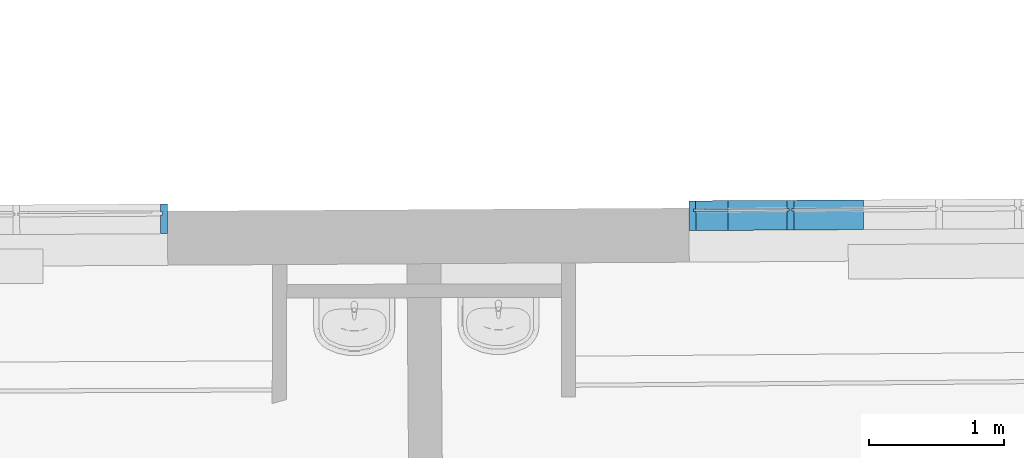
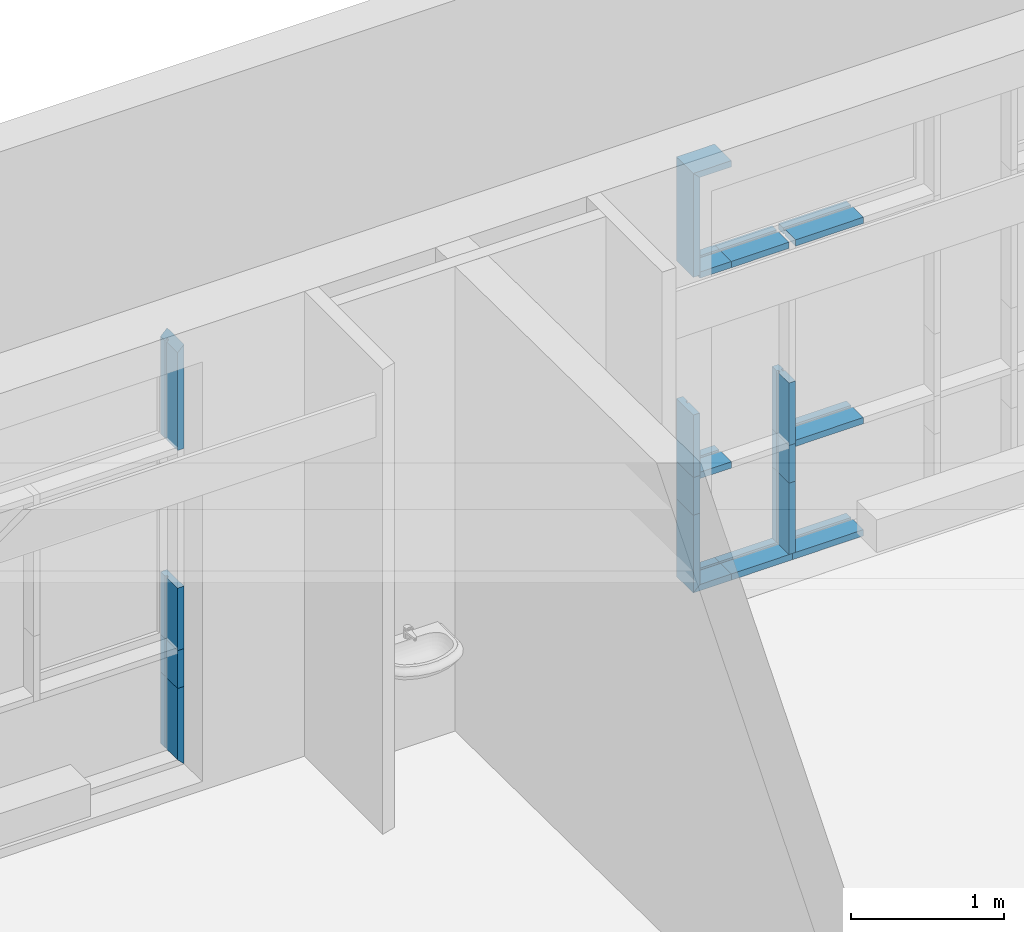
# One storey, part 162 of 196: 20 building element parts, 2 elements without a shape of their own.
"""IFC2X3 building model written with IfcOpenShell, lengths in metres."""

from ifc_helpers import new_model, entity, si_unit, converted_unit, derived_unit, money_unit, direction, frame, origin_with_axes, place, context, subcontext, project, spatial, faceted_brep, material, type_object, element, aggregate, save


model = new_model("IFC2X3")

# Units and contexts
model_context = context("Model", 3, precision=1e-05, world=origin_with_axes(), true_north=direction((0.0, 1.0)))
body_context = subcontext(model_context, "Body", "Model", "MODEL_VIEW")
ifc_project = project(units=[si_unit("LENGTHUNIT", "METRE"), si_unit("AREAUNIT", "SQUARE_METRE"), si_unit("VOLUMEUNIT", "CUBIC_METRE"), converted_unit("PLANEANGLEUNIT", "DEGREE", entity("IfcPlaneAngleMeasure", 0.0174532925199), si_unit("PLANEANGLEUNIT", "RADIAN"), dimensions=[0, 0, 0, 0, 0, 0, 0]), money_unit("EUR"), converted_unit("TIMEUNIT", "Year", entity("IfcTimeMeasure", 31556926.0), si_unit("TIMEUNIT", "SECOND"), dimensions=[0, 0, 1, 0, 0, 0, 0]), si_unit("MASSUNIT", "GRAM", prefix="KILO"), si_unit("THERMODYNAMICTEMPERATUREUNIT", "DEGREE_CELSIUS"), si_unit("LUMINOUSINTENSITYUNIT", "LUMEN"), si_unit("ENERGYUNIT", "JOULE", prefix="MEGA"), derived_unit("THERMALCONDUCTANCEUNIT", [(si_unit("POWERUNIT", "WATT"), 1), (si_unit("LENGTHUNIT", "METRE"), -1), (si_unit("THERMODYNAMICTEMPERATUREUNIT", "KELVIN"), -1)]), derived_unit("SPECIFICHEATCAPACITYUNIT", [(si_unit("ENERGYUNIT", "JOULE"), 1), (si_unit("MASSUNIT", "GRAM", prefix="KILO"), -1), (si_unit("THERMODYNAMICTEMPERATUREUNIT", "KELVIN"), -1)]), derived_unit("MASSDENSITYUNIT", [(si_unit("MASSUNIT", "GRAM", prefix="KILO"), 1), (si_unit("VOLUMEUNIT", "CUBIC_METRE"), -1)])], contexts=[model_context])

# Site, building, storey
site_placement = place(None, origin_with_axes())
site = spatial("IfcSite", under=ifc_project, at=site_placement, Name="Gelände", CompositionType="ELEMENT")
building_placement = place(site_placement, origin_with_axes())
building = spatial("IfcBuilding", under=site, at=building_placement, Name="Gebäude", CompositionType="ELEMENT")
storey_placement = place(building_placement, frame((0.0, 0.0, -3.0), z_axis=(0.0, 0.0, 1.0), x_axis=(1.0, 0.0, 0.0)))
storey = spatial("IfcBuildingStorey", under=building, at=storey_placement, Name="KELLERGESCHOSS", CompositionType="ELEMENT", Elevation=-3.0)

# Proxy, building element parts
building_element_proxy_type = type_object("IfcBuildingElementProxyType", Name="Fassadentyp", PredefinedType="NOTDEFINED")
proxy_1_placement = place(storey_placement, frame((-32.8906294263, 53.9050625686, 0.421025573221), z_axis=(0.0, 0.0, 1.0), x_axis=(1.0, 0.0, 0.0)))
proxy_1 = element("IfcBuildingElementProxy", 1, at=proxy_1_placement, inside=storey, type_object=building_element_proxy_type, Name="Fassade-002")
ifc_material = material(Name="53_Metall, Aluminium")
building_element_part_1_placement = place(proxy_1_placement, origin_with_axes())
building_element_part_1 = element("IfcBuildingElementPart", 2, at=building_element_part_1_placement, material=ifc_material, Name="53_Metall, Aluminium", context=body_context, shape_type="Brep", body=[
    faceted_brep([(4.05205270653, 0.0139380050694, 0.619999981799), (4.03705296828, 0.0138493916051, 0.619999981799), (4.03788002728, -0.126148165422, 0.619999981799), (4.08787915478, -0.125852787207, 0.619999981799), (4.08657949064, 0.0941433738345, 0.619999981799), (4.03658036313, 0.0938479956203, 0.619999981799), (4.03693481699, 0.0338490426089, 0.619999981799), (4.05193455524, 0.0339376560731, 0.619999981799), (4.05205270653, 0.0139380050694, 0.0349999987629), (4.03705296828, 0.0138493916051, 0.0499999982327), (4.03788002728, -0.126148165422, 0.0499999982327), (4.08787915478, -0.125852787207, 0.0), (4.08657949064, 0.0941433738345, 0.0), (4.03658036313, 0.0938479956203, 0.0499999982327), (4.03693481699, 0.0338490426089, 0.0499999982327), (4.05193455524, 0.0339376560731, 0.0349999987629)], [[[0, 1, 2, 3, 4, 5, 6, 7]], [[0, 8, 9, 1]], [[9, 10, 2, 1]], [[2, 10, 11, 3]], [[3, 11, 12, 4]], [[4, 12, 13, 5]], [[6, 5, 13, 14]], [[14, 15, 7, 6]], [[7, 15, 8, 0]], [[8, 15, 14, 13, 12, 11, 10, 9]]]),
])
building_element_part_2_placement = place(proxy_1_placement, origin_with_axes())
building_element_part_2 = element("IfcBuildingElementPart", 3, at=building_element_part_2_placement, material=ifc_material, Name="53_Metall, Aluminium", context=body_context, shape_type="Brep", body=[
    faceted_brep([(4.05205270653, 0.0139380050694, 0.920851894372), (4.03705296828, 0.0138493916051, 0.920851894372), (4.03788002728, -0.126148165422, 0.920851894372), (4.08787915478, -0.125852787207, 0.920851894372), (4.08657949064, 0.0941433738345, 0.920851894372), (4.03658036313, 0.0938479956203, 0.920851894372), (4.03693481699, 0.0338490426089, 0.920851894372), (4.05193455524, 0.0339376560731, 0.920851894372), (4.05205270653, 0.0139380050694, 0.620000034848), (4.03705296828, 0.0138493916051, 0.620000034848), (4.03788002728, -0.126148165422, 0.620000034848), (4.08787915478, -0.125852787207, 0.620000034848), (4.08657949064, 0.0941433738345, 0.620000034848), (4.03658036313, 0.0938479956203, 0.620000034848), (4.03693481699, 0.0338490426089, 0.620000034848), (4.05193455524, 0.0339376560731, 0.620000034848)], [[[0, 1, 2, 3, 4, 5, 6, 7]], [[0, 8, 9, 1]], [[9, 10, 2, 1]], [[10, 11, 3, 2]], [[11, 12, 4, 3]], [[12, 13, 5, 4]], [[6, 5, 13, 14]], [[14, 15, 7, 6]], [[7, 15, 8, 0]], [[8, 15, 14, 13, 12, 11, 10, 9]]]),
])
building_element_part_3_placement = place(proxy_1_placement, origin_with_axes())
building_element_part_3 = element("IfcBuildingElementPart", 4, at=building_element_part_3_placement, material=ifc_material, Name="53_Metall, Aluminium", context=body_context, shape_type="Brep", body=[
    faceted_brep([(4.05205270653, 0.0139380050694, 1.42000003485), (4.03705296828, 0.0138493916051, 1.42000003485), (4.03788002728, -0.126148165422, 1.42000003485), (4.08787915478, -0.125852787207, 1.42000003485), (4.08657949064, 0.0941433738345, 1.42000003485), (4.03658036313, 0.0938479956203, 1.42000003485), (4.03693481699, 0.0338490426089, 1.42000003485), (4.05193455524, 0.0339376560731, 1.42000003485), (4.05205270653, 0.0139380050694, 0.920851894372), (4.03705296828, 0.0138493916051, 0.920851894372), (4.03788002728, -0.126148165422, 0.920851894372), (4.08787915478, -0.125852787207, 0.920851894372), (4.08657949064, 0.0941433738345, 0.920851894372), (4.03658036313, 0.0938479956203, 0.920851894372), (4.03693481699, 0.0338490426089, 0.920851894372), (4.05193455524, 0.0339376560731, 0.920851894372)], [[[0, 1, 2, 3, 4, 5, 6, 7]], [[0, 8, 9, 1]], [[9, 10, 2, 1]], [[10, 11, 3, 2]], [[11, 12, 4, 3]], [[12, 13, 5, 4]], [[6, 5, 13, 14]], [[14, 15, 7, 6]], [[7, 15, 8, 0]], [[8, 15, 14, 13, 12, 11, 10, 9]]]),
])
building_element_part_4_placement = place(proxy_1_placement, origin_with_axes())
building_element_part_4 = element("IfcBuildingElementPart", 5, at=building_element_part_4_placement, material=ifc_material, Name="53_Metall, Aluminium", context=body_context, shape_type="Brep", body=[
    faceted_brep([(4.05205270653, 0.0139380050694, 3.31499996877), (4.03705296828, 0.0138493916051, 3.29999996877), (4.03788002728, -0.126148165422, 3.29999996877), (4.08787915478, -0.125852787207, 3.34999996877), (4.08657949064, 0.0941433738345, 3.34999996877), (4.03658036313, 0.0938479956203, 3.29999996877), (4.03693481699, 0.0338490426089, 3.29999996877), (4.05193455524, 0.0339376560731, 3.31499996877), (4.05205270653, 0.0139380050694, 2.52000003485), (4.03705296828, 0.0138493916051, 2.52000003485), (4.03788002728, -0.126148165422, 2.52000003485), (4.08787915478, -0.125852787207, 2.52000003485), (4.08657949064, 0.0941433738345, 2.52000003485), (4.03658036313, 0.0938479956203, 2.52000003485), (4.03693481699, 0.0338490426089, 2.52000003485), (4.05193455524, 0.0339376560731, 2.52000003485)], [[[0, 1, 2, 3, 4, 5, 6, 7]], [[0, 8, 9, 1]], [[9, 10, 2, 1]], [[10, 11, 3, 2]], [[11, 12, 4, 3]], [[12, 13, 5, 4]], [[6, 5, 13, 14]], [[14, 15, 7, 6]], [[7, 15, 8, 0]], [[8, 15, 14, 13, 12, 11, 10, 9]]]),
])
aggregate(proxy_1, [building_element_part_1, building_element_part_2, building_element_part_3, building_element_part_4])

proxy_2_placement = place(storey_placement, frame((-23.6479994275, 53.9595773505, 0.421025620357), z_axis=(0.0, 0.0, 1.0), x_axis=(1.0, 0.0, 0.0)))
proxy_2 = element("IfcBuildingElementProxy", 6, at=proxy_2_placement, inside=storey, type_object=building_element_proxy_type, Name="Fassade-002")
building_element_part_5_placement = place(proxy_2_placement, origin_with_axes())
building_element_part_5 = element("IfcBuildingElementPart", 7, at=building_element_part_5_placement, material=ifc_material, Name="53_Metall, Aluminium", context=body_context, shape_type="Brep", body=[
    faceted_brep([(-0.546920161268, -0.0132311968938, 0.034999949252), (-0.547038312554, 0.00676845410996, 0.034999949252), (-0.547038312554, 0.00676845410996, 0.049999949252), (-0.547392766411, 0.0667674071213, 0.049999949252), (-0.547392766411, 0.0667674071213, -5.07479946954e-08), (-0.546093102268, -0.15322875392, -5.07479946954e-08), (-0.546093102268, -0.15322875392, 0.049999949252), (-0.546920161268, -0.0132311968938, 0.049999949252), (-0.00820228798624, -0.0100486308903, 0.034999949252), (-0.00832043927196, 0.00995102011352, 0.034999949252), (-0.00832043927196, 0.00995102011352, 0.049999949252), (-0.00867489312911, 0.0699499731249, 0.049999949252), (-0.00867489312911, 0.0699499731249, -5.07479946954e-08), (-0.00737522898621, -0.150046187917, -5.07479946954e-08), (-0.00737522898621, -0.150046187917, 0.049999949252), (-0.00820228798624, -0.0100486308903, 0.049999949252)], [[[0, 1, 2, 3, 4, 5, 6, 7]], [[1, 0, 8, 9]], [[10, 2, 1, 9]], [[2, 10, 11, 3]], [[12, 4, 3, 11]], [[13, 5, 4, 12]], [[14, 6, 5, 13]], [[15, 7, 6, 14]], [[0, 7, 15, 8]], [[8, 15, 14, 13, 12, 11, 10, 9]]]),
])
building_element_part_6_placement = place(proxy_2_placement, origin_with_axes())
building_element_part_6 = element("IfcBuildingElementPart", 8, at=building_element_part_6_placement, material=ifc_material, Name="53_Metall, Aluminium", context=body_context, shape_type="Brep", body=[
    faceted_brep([(-1.00818484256, -0.0159561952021, 0.034999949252), (-1.00830299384, 0.0040434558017, 0.034999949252), (-1.00830299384, 0.0040434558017, 0.049999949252), (-1.0086574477, 0.0640424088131, 0.049999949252), (-1.0086574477, 0.0640424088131, -5.07479942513e-08), (-1.00735778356, -0.155953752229, -5.07479942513e-08), (-1.00735778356, -0.155953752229, 0.049999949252), (-1.00818484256, -0.0159561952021, 0.049999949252), (-0.546920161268, -0.0132311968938, 0.034999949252), (-0.547038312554, 0.00676845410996, 0.034999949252), (-0.547038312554, 0.00676845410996, 0.049999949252), (-0.547392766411, 0.0667674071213, 0.049999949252), (-0.547392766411, 0.0667674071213, -5.07479942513e-08), (-0.546093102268, -0.15322875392, -5.07479942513e-08), (-0.546093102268, -0.15322875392, 0.049999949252), (-0.546920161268, -0.0132311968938, 0.049999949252)], [[[0, 1, 2, 3, 4, 5, 6, 7]], [[1, 0, 8, 9]], [[10, 2, 1, 9]], [[2, 10, 11, 3]], [[12, 4, 3, 11]], [[13, 5, 4, 12]], [[14, 6, 5, 13]], [[15, 7, 6, 14]], [[0, 7, 15, 8]], [[8, 15, 14, 13, 12, 11, 10, 9]]]),
])
building_element_part_7_placement = place(proxy_2_placement, origin_with_axes())
building_element_part_7 = element("IfcBuildingElementPart", 9, at=building_element_part_7_placement, material=ifc_material, Name="53_Metall, Aluminium", context=body_context, shape_type="Brep", body=[
    faceted_brep([(-1.00818483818, -0.0159561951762, 2.50999998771), (-1.00818483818, -0.0159561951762, 2.49499998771), (-1.00735777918, -0.155953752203, 2.49499998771), (-1.00735777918, -0.155953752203, 2.54499998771), (-1.00818483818, -0.0159561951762, 2.54499998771), (-1.00818483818, -0.0159561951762, 2.52999998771), (-1.00830298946, 0.00404345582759, 2.52999998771), (-1.00830298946, 0.00404345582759, 2.54499998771), (-1.00865744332, 0.064042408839, 2.54499998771), (-1.00865744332, 0.064042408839, 2.49499998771), (-1.00830298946, 0.00404345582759, 2.49499998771), (-1.00830298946, 0.00404345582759, 2.50999998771), (-0.57191973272, -0.0133788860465, 2.50999998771), (-0.57191973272, -0.0133788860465, 2.49499998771), (-0.57109267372, -0.153376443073, 2.49499998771), (-0.57109267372, -0.153376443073, 2.54499998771), (-0.57191973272, -0.0133788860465, 2.54499998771), (-0.57191973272, -0.0133788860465, 2.52999998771), (-0.572037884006, 0.00662076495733, 2.52999998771), (-0.572037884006, 0.00662076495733, 2.54499998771), (-0.572392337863, 0.0666197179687, 2.54499998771), (-0.572392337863, 0.0666197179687, 2.49499998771), (-0.572037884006, 0.00662076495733, 2.49499998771), (-0.572037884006, 0.00662076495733, 2.50999998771)], [[[0, 1, 2, 3, 4, 5, 6, 7, 8, 9, 10, 11]], [[1, 0, 12, 13]], [[1, 13, 14, 2]], [[2, 14, 15, 3]], [[4, 3, 15, 16]], [[4, 16, 17, 5]], [[5, 17, 18, 6]], [[7, 6, 18, 19]], [[19, 20, 8, 7]], [[8, 20, 21, 9]], [[22, 10, 9, 21]], [[11, 10, 22, 23]], [[0, 11, 23, 12]], [[23, 22, 21, 20, 19, 18, 17, 16, 15, 14, 13, 12]]]),
])
building_element_part_8_placement = place(proxy_2_placement, origin_with_axes())
building_element_part_8 = element("IfcBuildingElementPart", 10, at=building_element_part_8_placement, material=ifc_material, Name="53_Metall, Aluminium", context=body_context, shape_type="Brep", body=[
    faceted_brep([(-0.556919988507, -0.013290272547, 1.41999998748), (-0.57191972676, -0.0133788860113, 1.41999998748), (-0.57109266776, -0.153376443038, 1.41999998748), (-0.52109354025, -0.153081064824, 1.41999998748), (-0.52192059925, -0.013083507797, 1.41999998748), (-0.536920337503, -0.0131721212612, 1.41999998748), (-0.537038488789, 0.00682752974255, 1.41999998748), (-0.522038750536, 0.00691614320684, 1.41999998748), (-0.522393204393, 0.0669150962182, 1.41999998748), (-0.572392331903, 0.0666197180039, 1.41999998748), (-0.572037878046, 0.00662076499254, 1.41999998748), (-0.557038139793, 0.00670937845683, 1.41999998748), (-0.556919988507, -0.013290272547, 0.920851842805), (-0.57191972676, -0.0133788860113, 0.920851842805), (-0.57109266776, -0.153376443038, 0.920851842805), (-0.52109354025, -0.153081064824, 0.920851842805), (-0.52192059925, -0.013083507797, 0.920851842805), (-0.536920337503, -0.0131721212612, 0.920851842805), (-0.537038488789, 0.00682752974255, 0.920851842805), (-0.522038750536, 0.00691614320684, 0.920851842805), (-0.522393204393, 0.0669150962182, 0.920851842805), (-0.572392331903, 0.0666197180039, 0.920851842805), (-0.572037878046, 0.00662076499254, 0.920851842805), (-0.557038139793, 0.00670937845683, 0.920851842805)], [[[0, 1, 2, 3, 4, 5, 6, 7, 8, 9, 10, 11]], [[1, 0, 12, 13]], [[1, 13, 14, 2]], [[3, 2, 14, 15]], [[4, 3, 15, 16]], [[4, 16, 17, 5]], [[5, 17, 18, 6]], [[7, 6, 18, 19]], [[19, 20, 8, 7]], [[9, 8, 20, 21]], [[22, 10, 9, 21]], [[11, 10, 22, 23]], [[0, 11, 23, 12]], [[23, 22, 21, 20, 19, 18, 17, 16, 15, 14, 13, 12]]]),
])
building_element_part_9_placement = place(proxy_2_placement, origin_with_axes())
building_element_part_9 = element("IfcBuildingElementPart", 11, at=building_element_part_9_placement, material=ifc_material, Name="53_Metall, Aluminium", context=body_context, shape_type="Brep", body=[
    faceted_brep([(-0.521920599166, -0.0130835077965, 0.910851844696), (-0.521920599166, -0.0130835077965, 0.895851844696), (-0.521093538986, -0.153081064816, 0.895851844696), (-0.521093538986, -0.153081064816, 0.945851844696), (-0.521920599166, -0.0130835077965, 0.945851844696), (-0.521920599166, -0.0130835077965, 0.930851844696), (-0.52203875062, 0.00691614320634, 0.930851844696), (-0.52203875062, 0.00691614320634, 0.945851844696), (-0.522393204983, 0.0669150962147, 0.945851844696), (-0.522393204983, 0.0669150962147, 0.895851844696), (-0.52203875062, 0.00691614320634, 0.895851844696), (-0.52203875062, 0.00691614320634, 0.910851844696), (-0.00820228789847, -0.0100486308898, 0.910851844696), (-0.00820228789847, -0.0100486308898, 0.895851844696), (-0.00737522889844, -0.150046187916, 0.895851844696), (-0.00737522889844, -0.150046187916, 0.945851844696), (-0.00820228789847, -0.0100486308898, 0.945851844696), (-0.00820228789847, -0.0100486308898, 0.930851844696), (-0.00832043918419, 0.00995102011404, 0.930851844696), (-0.00832043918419, 0.00995102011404, 0.945851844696), (-0.00867489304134, 0.0699499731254, 0.945851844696), (-0.00867489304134, 0.0699499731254, 0.895851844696), (-0.00832043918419, 0.00995102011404, 0.895851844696), (-0.00832043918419, 0.00995102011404, 0.910851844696)], [[[0, 1, 2, 3, 4, 5, 6, 7, 8, 9, 10, 11]], [[1, 0, 12, 13]], [[1, 13, 14, 2]], [[3, 2, 14, 15]], [[4, 3, 15, 16]], [[4, 16, 17, 5]], [[5, 17, 18, 6]], [[7, 6, 18, 19]], [[19, 20, 8, 7]], [[9, 8, 20, 21]], [[22, 10, 9, 21]], [[11, 10, 22, 23]], [[0, 11, 23, 12]], [[23, 22, 21, 20, 19, 18, 17, 16, 15, 14, 13, 12]]]),
])
building_element_part_10_placement = place(proxy_2_placement, origin_with_axes())
building_element_part_10 = element("IfcBuildingElementPart", 12, at=building_element_part_10_placement, material=ifc_material, Name="53_Metall, Aluminium", context=body_context, shape_type="Brep", body=[
    faceted_brep([(-1.24763454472, -0.0173707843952, 0.910851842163), (-1.24763454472, -0.0173707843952, 0.895851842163), (-1.24680748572, -0.157368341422, 0.895851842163), (-1.24680748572, -0.157368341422, 0.945851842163), (-1.24763454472, -0.0173707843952, 0.945851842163), (-1.24763454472, -0.0173707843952, 0.930851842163), (-1.247752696, 0.00262886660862, 0.930851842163), (-1.247752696, 0.00262886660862, 0.945851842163), (-1.24810714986, 0.06262781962, 0.945851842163), (-1.24810714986, 0.06262781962, 0.895851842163), (-1.247752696, 0.00262886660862, 0.895851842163), (-1.247752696, 0.00262886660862, 0.910851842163), (-1.00818483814, -0.015956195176, 0.910851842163), (-1.00818483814, -0.015956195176, 0.895851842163), (-1.00735777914, -0.155953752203, 0.895851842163), (-1.00735777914, -0.155953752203, 0.945851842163), (-1.00818483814, -0.015956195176, 0.945851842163), (-1.00818483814, -0.015956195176, 0.930851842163), (-1.00830298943, 0.0040434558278, 0.930851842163), (-1.00830298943, 0.0040434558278, 0.945851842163), (-1.00865744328, 0.0640424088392, 0.945851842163), (-1.00865744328, 0.0640424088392, 0.895851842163), (-1.00830298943, 0.0040434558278, 0.895851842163), (-1.00830298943, 0.0040434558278, 0.910851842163)], [[[0, 1, 2, 3, 4, 5, 6, 7, 8, 9, 10, 11]], [[1, 0, 12, 13]], [[1, 13, 14, 2]], [[3, 2, 14, 15]], [[4, 3, 15, 16]], [[4, 16, 17, 5]], [[5, 17, 18, 6]], [[7, 6, 18, 19]], [[19, 20, 8, 7]], [[9, 8, 20, 21]], [[22, 10, 9, 21]], [[11, 10, 22, 23]], [[0, 11, 23, 12]], [[23, 22, 21, 20, 19, 18, 17, 16, 15, 14, 13, 12]]]),
])
building_element_part_11_placement = place(proxy_2_placement, origin_with_axes())
building_element_part_11 = element("IfcBuildingElementPart", 13, at=building_element_part_11_placement, material=ifc_material, Name="53_Metall, Aluminium", context=body_context, shape_type="Brep", body=[
    faceted_brep([(-1.26263428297, -0.0174593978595, 0.920851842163), (-1.26275243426, 0.00254025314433, 0.920851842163), (-1.247752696, 0.00262886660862, 0.920851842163), (-1.24810714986, 0.06262781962, 0.920851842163), (-1.29810627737, 0.0623324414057, 0.920851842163), (-1.29680661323, -0.157663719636, 0.920851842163), (-1.24680748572, -0.157368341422, 0.920851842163), (-1.24763454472, -0.0173707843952, 0.920851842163), (-1.26263428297, -0.0174593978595, 0.619999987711), (-1.26275243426, 0.00254025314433, 0.619999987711), (-1.247752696, 0.00262886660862, 0.619999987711), (-1.24810714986, 0.06262781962, 0.619999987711), (-1.29810627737, 0.0623324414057, 0.619999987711), (-1.29680661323, -0.157663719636, 0.619999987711), (-1.24680748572, -0.157368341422, 0.619999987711), (-1.24763454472, -0.0173707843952, 0.619999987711)], [[[0, 1, 2, 3, 4, 5, 6, 7]], [[1, 0, 8, 9]], [[10, 2, 1, 9]], [[2, 10, 11, 3]], [[12, 4, 3, 11]], [[13, 5, 4, 12]], [[14, 6, 5, 13]], [[15, 7, 6, 14]], [[0, 7, 15, 8]], [[8, 15, 14, 13, 12, 11, 10, 9]]]),
])
building_element_part_12_placement = place(proxy_2_placement, origin_with_axes())
building_element_part_12 = element("IfcBuildingElementPart", 14, at=building_element_part_12_placement, material=ifc_material, Name="53_Metall, Aluminium", context=body_context, shape_type="Brep", body=[
    faceted_brep([(-0.521920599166, -0.0130835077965, 2.50999998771), (-0.521920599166, -0.0130835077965, 2.49499998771), (-0.521093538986, -0.153081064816, 2.49499998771), (-0.521093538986, -0.153081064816, 2.54499998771), (-0.521920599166, -0.0130835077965, 2.54499998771), (-0.521920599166, -0.0130835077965, 2.52999998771), (-0.52203875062, 0.00691614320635, 2.52999998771), (-0.52203875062, 0.00691614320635, 2.54499998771), (-0.522393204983, 0.0669150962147, 2.54499998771), (-0.522393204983, 0.0669150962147, 2.49499998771), (-0.52203875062, 0.00691614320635, 2.49499998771), (-0.52203875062, 0.00691614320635, 2.50999998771), (-0.00820228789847, -0.0100486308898, 2.50999998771), (-0.00820228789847, -0.0100486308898, 2.49499998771), (-0.00737522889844, -0.150046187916, 2.49499998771), (-0.00737522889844, -0.150046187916, 2.54499998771), (-0.00820228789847, -0.0100486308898, 2.54499998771), (-0.00820228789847, -0.0100486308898, 2.52999998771), (-0.00832043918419, 0.00995102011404, 2.52999998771), (-0.00832043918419, 0.00995102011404, 2.54499998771), (-0.00867489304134, 0.0699499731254, 2.54499998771), (-0.00867489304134, 0.0699499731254, 2.49499998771), (-0.00832043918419, 0.00995102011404, 2.49499998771), (-0.00832043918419, 0.00995102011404, 2.50999998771)], [[[0, 1, 2, 3, 4, 5, 6, 7, 8, 9, 10, 11]], [[1, 0, 12, 13]], [[1, 13, 14, 2]], [[3, 2, 14, 15]], [[4, 3, 15, 16]], [[4, 16, 17, 5]], [[5, 17, 18, 6]], [[7, 6, 18, 19]], [[19, 20, 8, 7]], [[9, 8, 20, 21]], [[22, 10, 9, 21]], [[11, 10, 22, 23]], [[0, 11, 23, 12]], [[23, 22, 21, 20, 19, 18, 17, 16, 15, 14, 13, 12]]]),
])
building_element_part_13_placement = place(proxy_2_placement, origin_with_axes())
building_element_part_13 = element("IfcBuildingElementPart", 15, at=building_element_part_13_placement, material=ifc_material, Name="53_Metall, Aluminium", context=body_context, shape_type="Brep", body=[
    faceted_brep([(-0.556919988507, -0.013290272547, 0.920851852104), (-0.57191972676, -0.0133788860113, 0.920851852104), (-0.57109266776, -0.153376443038, 0.920851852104), (-0.52109354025, -0.153081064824, 0.920851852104), (-0.52192059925, -0.013083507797, 0.920851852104), (-0.536920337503, -0.0131721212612, 0.920851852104), (-0.537038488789, 0.00682752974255, 0.920851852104), (-0.522038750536, 0.00691614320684, 0.920851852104), (-0.522393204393, 0.0669150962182, 0.920851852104), (-0.572392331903, 0.0666197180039, 0.920851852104), (-0.572037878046, 0.00662076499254, 0.920851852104), (-0.557038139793, 0.00670937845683, 0.920851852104), (-0.556919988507, -0.013290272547, 0.619999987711), (-0.57191972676, -0.0133788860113, 0.619999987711), (-0.57109266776, -0.153376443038, 0.619999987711), (-0.52109354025, -0.153081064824, 0.619999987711), (-0.52192059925, -0.013083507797, 0.619999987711), (-0.536920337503, -0.0131721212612, 0.619999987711), (-0.537038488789, 0.00682752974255, 0.619999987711), (-0.522038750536, 0.00691614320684, 0.619999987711), (-0.522393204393, 0.0669150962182, 0.619999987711), (-0.572392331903, 0.0666197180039, 0.619999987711), (-0.572037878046, 0.00662076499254, 0.619999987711), (-0.557038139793, 0.00670937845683, 0.619999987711)], [[[0, 1, 2, 3, 4, 5, 6, 7, 8, 9, 10, 11]], [[1, 0, 12, 13]], [[1, 13, 14, 2]], [[3, 2, 14, 15]], [[4, 3, 15, 16]], [[4, 16, 17, 5]], [[5, 17, 18, 6]], [[7, 6, 18, 19]], [[19, 20, 8, 7]], [[9, 8, 20, 21]], [[22, 10, 9, 21]], [[11, 10, 22, 23]], [[0, 11, 23, 12]], [[23, 22, 21, 20, 19, 18, 17, 16, 15, 14, 13, 12]]]),
])
building_element_part_14_placement = place(proxy_2_placement, origin_with_axes())
building_element_part_14 = element("IfcBuildingElementPart", 16, at=building_element_part_14_placement, material=ifc_material, Name="53_Metall, Aluminium", context=body_context, shape_type="Brep", body=[
    faceted_brep([(-1.26263428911, -0.0174593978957, 0.034999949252), (-1.26275244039, 0.00254025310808, 0.034999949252), (-1.24775270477, 0.00262886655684, 0.049999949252), (-1.24810715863, 0.0626278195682, 0.049999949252), (-1.29810627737, 0.0623324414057, -5.07479942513e-08), (-1.29680661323, -0.157663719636, -5.07479942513e-08), (-1.24680749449, -0.157368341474, 0.049999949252), (-1.24763455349, -0.017370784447, 0.049999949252), (-1.00818483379, -0.0159561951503, 0.034999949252), (-1.00830298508, 0.00404345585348, 0.034999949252), (-1.00830298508, 0.00404345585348, 0.049999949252), (-1.00865743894, 0.0640424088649, 0.049999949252), (-1.00865743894, 0.0640424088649, -5.07479942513e-08), (-1.00735777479, -0.155953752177, -5.07479942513e-08), (-1.00735777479, -0.155953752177, 0.049999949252), (-1.00818483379, -0.0159561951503, 0.049999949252)], [[[0, 1, 2, 3, 4, 5, 6, 7]], [[1, 0, 8, 9]], [[10, 2, 1, 9]], [[2, 10, 11, 3]], [[12, 4, 3, 11]], [[13, 5, 4, 12]], [[14, 6, 5, 13]], [[15, 7, 6, 14]], [[0, 7, 15, 8]], [[8, 15, 14, 13, 12, 11, 10, 9]]]),
])
building_element_part_15_placement = place(proxy_2_placement, origin_with_axes())
building_element_part_15 = element("IfcBuildingElementPart", 17, at=building_element_part_15_placement, material=ifc_material, Name="53_Metall, Aluminium", context=body_context, shape_type="Brep", body=[
    faceted_brep([(-1.26263428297, -0.0174593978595, 1.41999998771), (-1.26275243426, 0.00254025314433, 1.41999998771), (-1.247752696, 0.00262886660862, 1.41999998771), (-1.24810714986, 0.06262781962, 1.41999998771), (-1.29810627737, 0.0623324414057, 1.41999998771), (-1.29680661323, -0.157663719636, 1.41999998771), (-1.24680748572, -0.157368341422, 1.41999998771), (-1.24763454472, -0.0173707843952, 1.41999998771), (-1.26263428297, -0.0174593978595, 0.920851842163), (-1.26275243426, 0.00254025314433, 0.920851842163), (-1.247752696, 0.00262886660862, 0.920851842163), (-1.24810714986, 0.06262781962, 0.920851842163), (-1.29810627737, 0.0623324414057, 0.920851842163), (-1.29680661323, -0.157663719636, 0.920851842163), (-1.24680748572, -0.157368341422, 0.920851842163), (-1.24763454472, -0.0173707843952, 0.920851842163)], [[[0, 1, 2, 3, 4, 5, 6, 7]], [[1, 0, 8, 9]], [[10, 2, 1, 9]], [[2, 10, 11, 3]], [[12, 4, 3, 11]], [[13, 5, 4, 12]], [[14, 6, 5, 13]], [[15, 7, 6, 14]], [[0, 7, 15, 8]], [[8, 15, 14, 13, 12, 11, 10, 9]]]),
])
building_element_part_16_placement = place(proxy_2_placement, origin_with_axes())
building_element_part_16 = element("IfcBuildingElementPart", 18, at=building_element_part_16_placement, material=ifc_material, Name="53_Metall, Aluminium", context=body_context, shape_type="Brep", body=[
    faceted_brep([(-1.26263428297, -0.0174593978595, 3.31499992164), (-1.26275243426, 0.00254025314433, 3.31499992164), (-1.247752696, 0.00262886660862, 3.29999992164), (-1.24810714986, 0.06262781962, 3.29999992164), (-1.29810627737, 0.0623324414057, 3.34999992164), (-1.29680661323, -0.157663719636, 3.34999992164), (-1.24680748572, -0.157368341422, 3.29999992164), (-1.24763454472, -0.0173707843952, 3.29999992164), (-1.26263428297, -0.0174593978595, 2.51999998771), (-1.26275243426, 0.00254025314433, 2.51999998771), (-1.247752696, 0.00262886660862, 2.51999998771), (-1.24810714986, 0.06262781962, 2.51999998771), (-1.29810627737, 0.0623324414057, 2.51999998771), (-1.29680661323, -0.157663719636, 2.51999998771), (-1.24680748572, -0.157368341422, 2.51999998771), (-1.24763454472, -0.0173707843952, 2.51999998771)], [[[0, 1, 2, 3, 4, 5, 6, 7]], [[1, 0, 8, 9]], [[10, 2, 1, 9]], [[2, 10, 11, 3]], [[12, 4, 3, 11]], [[13, 5, 4, 12]], [[14, 6, 5, 13]], [[15, 7, 6, 14]], [[0, 7, 15, 8]], [[8, 15, 14, 13, 12, 11, 10, 9]]]),
])
building_element_part_17_placement = place(proxy_2_placement, origin_with_axes())
building_element_part_17 = element("IfcBuildingElementPart", 19, at=building_element_part_17_placement, material=ifc_material, Name="53_Metall, Aluminium", context=body_context, shape_type="Brep", body=[
    faceted_brep([(-1.24763454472, -0.0173707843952, 2.50999998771), (-1.24763454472, -0.0173707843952, 2.49499998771), (-1.24680748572, -0.157368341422, 2.49499998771), (-1.24680748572, -0.157368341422, 2.54499998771), (-1.24763454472, -0.0173707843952, 2.54499998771), (-1.24763454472, -0.0173707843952, 2.52999998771), (-1.247752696, 0.00262886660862, 2.52999998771), (-1.247752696, 0.00262886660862, 2.54499998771), (-1.24810714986, 0.06262781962, 2.54499998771), (-1.24810714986, 0.06262781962, 2.49499998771), (-1.247752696, 0.00262886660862, 2.49499998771), (-1.247752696, 0.00262886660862, 2.50999998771), (-1.00818483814, -0.015956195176, 2.50999998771), (-1.00818483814, -0.015956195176, 2.49499998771), (-1.00735777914, -0.155953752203, 2.49499998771), (-1.00735777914, -0.155953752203, 2.54499998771), (-1.00818483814, -0.015956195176, 2.54499998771), (-1.00818483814, -0.015956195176, 2.52999998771), (-1.00830298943, 0.0040434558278, 2.52999998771), (-1.00830298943, 0.0040434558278, 2.54499998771), (-1.00865744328, 0.0640424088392, 2.54499998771), (-1.00865744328, 0.0640424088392, 2.49499998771), (-1.00830298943, 0.0040434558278, 2.49499998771), (-1.00830298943, 0.0040434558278, 2.50999998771)], [[[0, 1, 2, 3, 4, 5, 6, 7, 8, 9, 10, 11]], [[1, 0, 12, 13]], [[1, 13, 14, 2]], [[3, 2, 14, 15]], [[4, 3, 15, 16]], [[4, 16, 17, 5]], [[5, 17, 18, 6]], [[7, 6, 18, 19]], [[19, 20, 8, 7]], [[9, 8, 20, 21]], [[22, 10, 9, 21]], [[11, 10, 22, 23]], [[0, 11, 23, 12]], [[23, 22, 21, 20, 19, 18, 17, 16, 15, 14, 13, 12]]]),
])
building_element_part_18_placement = place(proxy_2_placement, origin_with_axes())
building_element_part_18 = element("IfcBuildingElementPart", 20, at=building_element_part_18_placement, material=ifc_material, Name="53_Metall, Aluminium", context=body_context, shape_type="Brep", body=[
    faceted_brep([(-1.26263428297, -0.0174593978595, 3.31499989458), (-1.24763454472, -0.0173707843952, 3.29999989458), (-1.24680748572, -0.157368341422, 3.29999989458), (-1.29680661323, -0.157663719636, 3.34999989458), (-1.29810627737, 0.0623324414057, 3.34999989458), (-1.24810714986, 0.06262781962, 3.29999989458), (-1.247752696, 0.00262886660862, 3.29999989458), (-1.26275243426, 0.00254025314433, 3.31499989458), (-1.00818483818, -0.0159561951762, 3.31499989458), (-1.00818483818, -0.0159561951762, 3.29999989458), (-1.00735777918, -0.155953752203, 3.29999989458), (-1.00735777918, -0.155953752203, 3.34999989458), (-1.00865744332, 0.064042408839, 3.34999989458), (-1.00865744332, 0.064042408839, 3.29999989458), (-1.00830298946, 0.00404345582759, 3.29999989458), (-1.00830298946, 0.00404345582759, 3.31499989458)], [[[0, 1, 2, 3, 4, 5, 6, 7]], [[0, 8, 9, 1]], [[9, 10, 2, 1]], [[10, 11, 3, 2]], [[11, 12, 4, 3]], [[12, 13, 5, 4]], [[6, 5, 13, 14]], [[14, 15, 7, 6]], [[7, 15, 8, 0]], [[8, 15, 14, 13, 12, 11, 10, 9]]]),
])
building_element_part_19_placement = place(proxy_2_placement, origin_with_axes())
building_element_part_19 = element("IfcBuildingElementPart", 21, at=building_element_part_19_placement, material=ifc_material, Name="53_Metall, Aluminium", context=body_context, shape_type="Brep", body=[
    faceted_brep([(-1.26263428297, -0.0174593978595, 0.620000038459), (-1.26275243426, 0.00254025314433, 0.620000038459), (-1.247752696, 0.00262886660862, 0.620000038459), (-1.24810714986, 0.06262781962, 0.620000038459), (-1.29810627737, 0.0623324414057, 0.620000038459), (-1.29680661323, -0.157663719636, 0.620000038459), (-1.24680748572, -0.157368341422, 0.620000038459), (-1.24763454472, -0.0173707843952, 0.620000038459), (-1.26263428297, -0.0174593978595, 0.035), (-1.26275243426, 0.00254025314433, 0.035), (-1.247752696, 0.00262886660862, 0.05), (-1.24810714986, 0.06262781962, 0.05), (-1.29810627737, 0.0623324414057, 0.0), (-1.29680661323, -0.157663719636, 0.0), (-1.24680748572, -0.157368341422, 0.05), (-1.24763454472, -0.0173707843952, 0.05)], [[[0, 1, 2, 3, 4, 5, 6, 7]], [[1, 0, 8, 9]], [[10, 2, 1, 9]], [[2, 10, 11, 3]], [[4, 3, 11, 12]], [[5, 4, 12, 13]], [[6, 5, 13, 14]], [[15, 7, 6, 14]], [[0, 7, 15, 8]], [[8, 15, 14, 13, 12, 11, 10, 9]]]),
])
building_element_part_20_placement = place(proxy_2_placement, origin_with_axes())
building_element_part_20 = element("IfcBuildingElementPart", 22, at=building_element_part_20_placement, material=ifc_material, Name="53_Metall, Aluminium", context=body_context, shape_type="Brep", body=[
    faceted_brep([(-0.55691998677, -0.0132902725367, 0.619999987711), (-0.571919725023, -0.013378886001, 0.619999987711), (-0.571092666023, -0.153376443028, 0.619999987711), (-0.521093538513, -0.153081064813, 0.619999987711), (-0.521920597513, -0.0130835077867, 0.619999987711), (-0.536920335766, -0.013172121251, 0.619999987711), (-0.537038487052, 0.00682752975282, 0.619999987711), (-0.522038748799, 0.0069161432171, 0.619999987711), (-0.522393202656, 0.0669150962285, 0.619999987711), (-0.572392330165, 0.0666197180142, 0.619999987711), (-0.572037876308, 0.00662076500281, 0.619999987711), (-0.557038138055, 0.0067093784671, 0.619999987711), (-0.55691998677, -0.0132902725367, 0.0499999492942), (-0.571919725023, -0.013378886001, 0.0499999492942), (-0.571092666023, -0.153376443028, 0.049999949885), (-0.521093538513, -0.153081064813, 0.049999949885), (-0.521920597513, -0.0130835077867, 0.0499999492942), (-0.536920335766, -0.013172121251, 0.0499999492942), (-0.537038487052, 0.00682752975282, 0.0499999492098), (-0.522038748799, 0.0069161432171, 0.0499999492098), (-0.522393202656, 0.0669150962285, 0.0499999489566), (-0.572392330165, 0.0666197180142, 0.0499999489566), (-0.572037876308, 0.00662076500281, 0.0499999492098), (-0.557038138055, 0.0067093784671, 0.0499999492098)], [[[0, 1, 2, 3, 4, 5, 6, 7, 8, 9, 10, 11]], [[1, 0, 12, 13]], [[1, 13, 14, 2]], [[2, 14, 15, 3]], [[4, 3, 15, 16]], [[4, 16, 17, 5]], [[5, 17, 18, 6]], [[7, 6, 18, 19]], [[19, 20, 8, 7]], [[8, 20, 21, 9]], [[22, 10, 9, 21]], [[11, 10, 22, 23]], [[0, 11, 23, 12]], [[23, 22, 21, 20, 19, 18, 17, 16, 15, 14, 13, 12]]]),
])
aggregate(proxy_2, [building_element_part_5, building_element_part_6, building_element_part_7, building_element_part_8, building_element_part_9, building_element_part_10, building_element_part_11, building_element_part_12, building_element_part_13, building_element_part_14, building_element_part_15, building_element_part_16, building_element_part_17, building_element_part_18, building_element_part_19, building_element_part_20])

save(model, "model.ifc")
